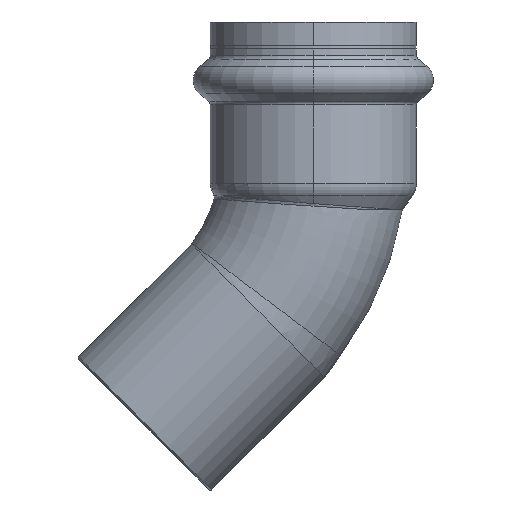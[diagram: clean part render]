
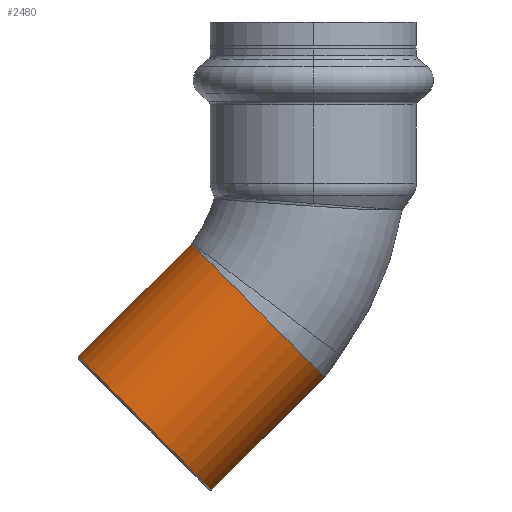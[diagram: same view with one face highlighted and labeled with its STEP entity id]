
A CAD part, left-side view. The second image highlights one B-rep face of the part: STEP entity #2480.
In plain terms, the highlighted cylindrical face has radius 21 mm (diameter 42 mm), a partial arc.
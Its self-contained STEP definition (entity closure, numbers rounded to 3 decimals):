
#16 = LINE ( 'NONE', #1088, #2428 ) ;
#149 = EDGE_CURVE ( 'NONE', #828, #550, #16, .T. ) ;
#301 = AXIS2_PLACEMENT_3D ( 'NONE', #2599, #2573, #2169 ) ;
#438 = EDGE_CURVE ( 'NONE', #1506, #1915, #1872, .T. ) ;
#548 = AXIS2_PLACEMENT_3D ( 'NONE', #820, #841, #834 ) ;
#550 = VERTEX_POINT ( 'NONE', #2074 ) ;
#559 = ORIENTED_EDGE ( 'NONE', *, *, #149, .F. ) ;
#769 = EDGE_LOOP ( 'NONE', ( #559, #927, #2598, #1065 ) ) ;
#820 = CARTESIAN_POINT ( 'NONE',  ( 0., 37.547, -37.547 ) ) ;
#828 = VERTEX_POINT ( 'NONE', #2004 ) ;
#834 = DIRECTION ( 'NONE',  ( 0., 0.707, 0.707 ) ) ;
#841 = DIRECTION ( 'NONE',  ( 0., -0.707, 0.707 ) ) ;
#927 = ORIENTED_EDGE ( 'NONE', *, *, #1757, .T. ) ;
#983 = AXIS2_PLACEMENT_3D ( 'NONE', #1384, #1379, #2088 ) ;
#1065 = ORIENTED_EDGE ( 'NONE', *, *, #2033, .T. ) ;
#1088 = CARTESIAN_POINT ( 'NONE',  ( 0., 9.522, -39.221 ) ) ;
#1114 = CARTESIAN_POINT ( 'NONE',  ( 0., 27.224, 2.475 ) ) ;
#1143 = VECTOR ( 'NONE', #1814, 1000. ) ;
#1333 = DIRECTION ( 'NONE',  ( 0., 0.707, -0.707 ) ) ;
#1379 = DIRECTION ( 'NONE',  ( 0., 0.707, -0.707 ) ) ;
#1384 = CARTESIAN_POINT ( 'NONE',  ( 0., 12.374, -12.374 ) ) ;
#1506 = VERTEX_POINT ( 'NONE', #1114 ) ;
#1662 = CARTESIAN_POINT ( 'NONE',  ( 0., 52.397, -22.698 ) ) ;
#1757 = EDGE_CURVE ( 'NONE', #828, #1506, #1959, .T. ) ;
#1814 = DIRECTION ( 'NONE',  ( 0., 0.707, -0.707 ) ) ;
#1872 = LINE ( 'NONE', #1906, #1143 ) ;
#1906 = CARTESIAN_POINT ( 'NONE',  ( 0., 39.221, -9.522 ) ) ;
#1915 = VERTEX_POINT ( 'NONE', #1662 ) ;
#1959 = CIRCLE ( 'NONE', #983, 21. ) ;
#2004 = CARTESIAN_POINT ( 'NONE',  ( 0., -2.475, -27.224 ) ) ;
#2033 = EDGE_CURVE ( 'NONE', #1915, #550, #2368, .T. ) ;
#2074 = CARTESIAN_POINT ( 'NONE',  ( 0., 22.698, -52.397 ) ) ;
#2088 = DIRECTION ( 'NONE',  ( 0., 0.707, 0.707 ) ) ;
#2169 = DIRECTION ( 'NONE',  ( 0., 0.707, 0.707 ) ) ;
#2368 = CIRCLE ( 'NONE', #548, 21. ) ;
#2428 = VECTOR ( 'NONE', #1333, 1000. ) ;
#2456 = CYLINDRICAL_SURFACE ( 'NONE', #301, 21. ) ;
#2480 = ADVANCED_FACE ( 'NONE', ( #2501 ), #2456, .T. ) ;
#2501 = FACE_OUTER_BOUND ( 'NONE', #769, .T. ) ;
#2573 = DIRECTION ( 'NONE',  ( 0., 0.707, -0.707 ) ) ;
#2598 = ORIENTED_EDGE ( 'NONE', *, *, #438, .T. ) ;
#2599 = CARTESIAN_POINT ( 'NONE',  ( 0., 24.371, -24.371 ) ) ;
